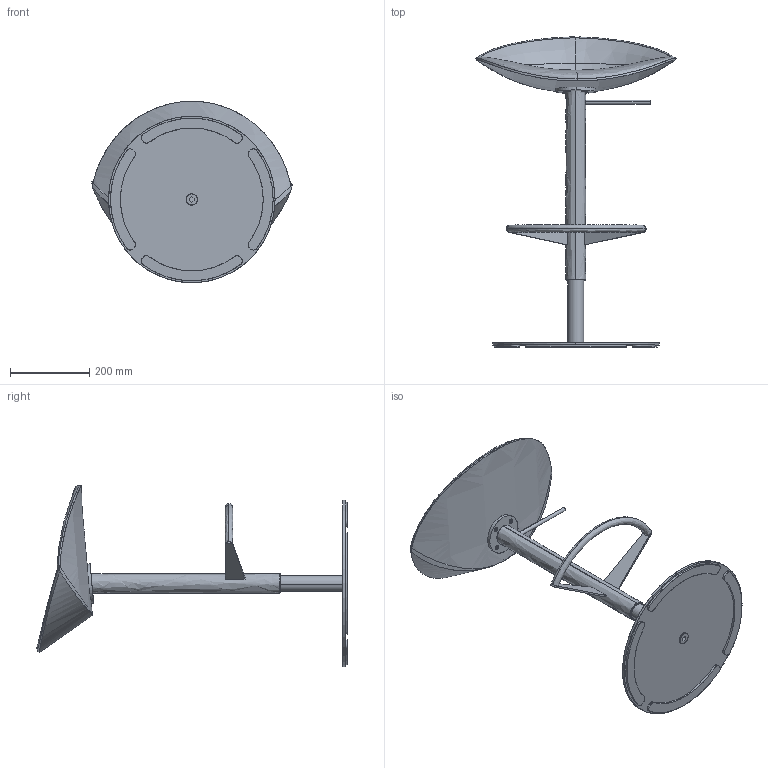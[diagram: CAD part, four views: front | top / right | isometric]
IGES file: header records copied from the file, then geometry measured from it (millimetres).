
Start section: SolidWorks IGES file using analytic representation for surfaces
Global section: file name: G:\Product Info\Mick\3d\igs\Mick.IGS; native system: SolidWorks 2008; preprocessor: SolidWorks 2008; author: remko; date: 080826.095805; units: millimetre
Bounding box: 505.76 x 782.45 x 457.61 mm (x, y, z)
Surface area: 1009077.6 mm2 (no closed solid volume)
Topology: 0 solids, 0 shells, 142 faces, 2804 edges, 2804 vertices
Faces by surface type: revolution 72, bspline 70
